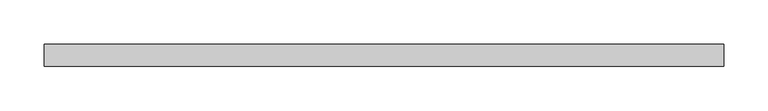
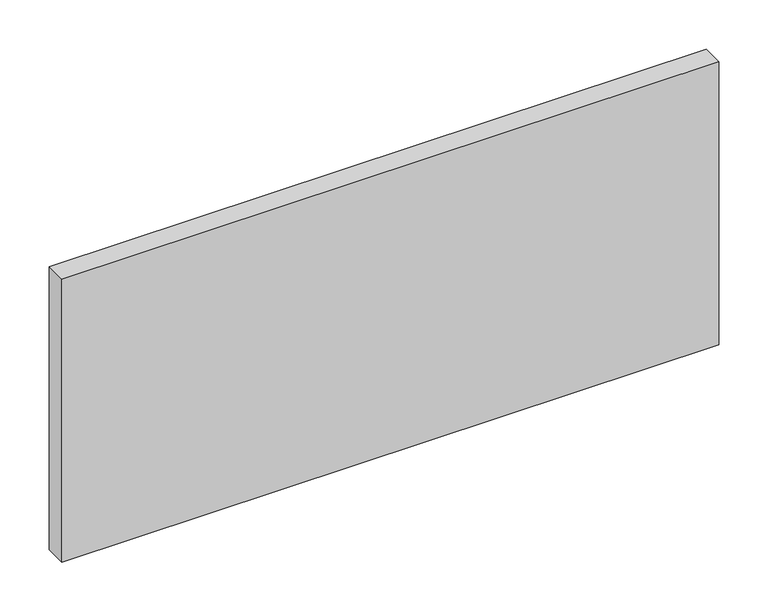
"""IFC4 building model written with IfcOpenShell, lengths in millimetres: plate geometry, 系统嵌板 : 玻璃."""

from ifc_helpers import new_model, si_unit, origin, origin_with_axes, place, context, project, spatial, polyline, outline, extrude, source, transform, mapped, element, save


def plate_f1ae9960(model_context):
    return source(origin(), model_context, "Body", "SweptSolid", [
        extrude(outline(polyline([(384.1753157, -12.5), (-384.1753157, -12.5), (-384.1753157, 12.5), (384.1753157, 12.5), (384.1753157, -12.5)])), origin_with_axes(), (0.0, 0.0, 1.0), 350.0),
    ])


if __name__ == "__main__":
    model = new_model("IFC4")
    model_context = context("Model", 3, world=origin())
    ifc_project = project(units=[si_unit("LENGTHUNIT", "METRE", prefix="MILLI")], contexts=[model_context])
    site = spatial("IfcSite", under=ifc_project)
    building = spatial("IfcBuilding", under=site)
    placement = place(None, origin())
    plate_shape = plate_f1ae9960(model_context)
    element("IfcPlate", 1, ObjectType="系统嵌板 : 玻璃", at=placement, inside=building, context=model_context, shape_type="MappedRepresentation", body=[
        mapped(plate_shape, transform((0.0, 0.0, 0.0), x_axis=(1.0, 0.0, 0.0), y_axis=(0.0, 1.0, 0.0), z_axis=(0.0, 0.0, 1.0))),
    ])
    save(model, "model.ifc")
